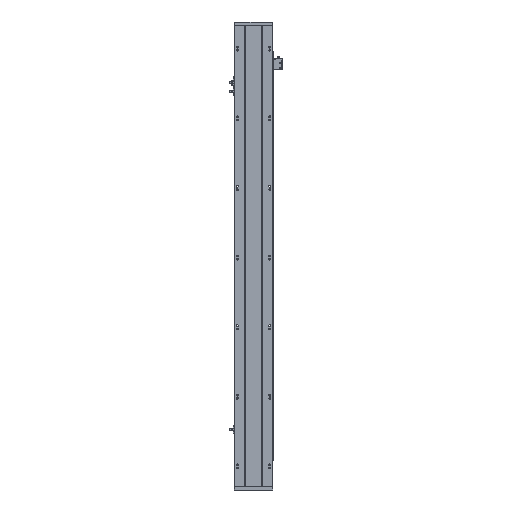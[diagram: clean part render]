
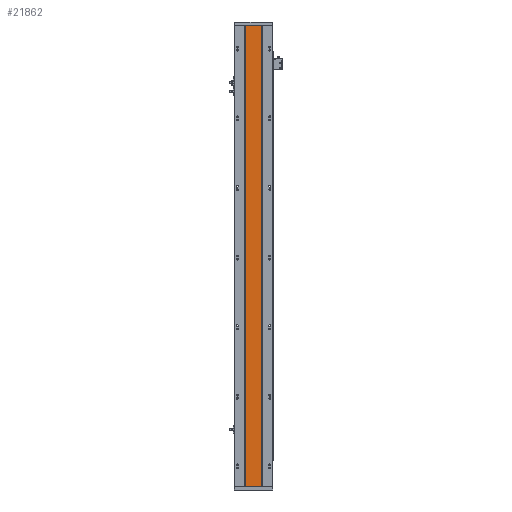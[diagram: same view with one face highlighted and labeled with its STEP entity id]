
A CAD part, front view. The second image highlights one B-rep face of the part: STEP entity #21862.
In plain terms, the highlighted planar face has unit normal (0, -1, 0).
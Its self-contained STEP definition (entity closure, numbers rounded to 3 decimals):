
#2025 = ORIENTED_EDGE ( 'NONE', *, *, #18872, .T. ) ;
#3052 = EDGE_CURVE ( 'NONE', #4344, #24870, #9448, .T. ) ;
#3317 = DIRECTION ( 'NONE',  ( -1., 0., 0. ) ) ;
#4344 = VERTEX_POINT ( 'NONE', #12514 ) ;
#7438 = PLANE ( 'NONE',  #10068 ) ;
#8120 = EDGE_CURVE ( 'NONE', #13325, #24870, #14245, .T. ) ;
#8491 = CARTESIAN_POINT ( 'NONE',  ( 183.063, 115.96, 1432. ) ) ;
#8928 = ORIENTED_EDGE ( 'NONE', *, *, #12211, .F. ) ;
#9324 = VERTEX_POINT ( 'NONE', #15212 ) ;
#9448 = LINE ( 'NONE', #13183, #16082 ) ;
#9955 = VECTOR ( 'NONE', #24834, 1000. ) ;
#10068 = AXIS2_PLACEMENT_3D ( 'NONE', #13913, #26536, #3317 ) ;
#12211 = EDGE_CURVE ( 'NONE', #9324, #13325, #14724, .T. ) ;
#12514 = CARTESIAN_POINT ( 'NONE',  ( 133.07, 115.96, 0. ) ) ;
#13104 = DIRECTION ( 'NONE',  ( 1., 0., 0. ) ) ;
#13183 = CARTESIAN_POINT ( 'NONE',  ( 0., 115.96, 0. ) ) ;
#13325 = VERTEX_POINT ( 'NONE', #8491 ) ;
#13913 = CARTESIAN_POINT ( 'NONE',  ( 0., 115.96, 1432. ) ) ;
#14245 = LINE ( 'NONE', #20504, #9955 ) ;
#14462 = LINE ( 'NONE', #17414, #26229 ) ;
#14724 = LINE ( 'NONE', #26062, #24803 ) ;
#15012 = FACE_OUTER_BOUND ( 'NONE', #23746, .T. ) ;
#15212 = CARTESIAN_POINT ( 'NONE',  ( 133.07, 115.96, 1432. ) ) ;
#16082 = VECTOR ( 'NONE', #19384, 1000. ) ;
#16804 = ORIENTED_EDGE ( 'NONE', *, *, #3052, .T. ) ;
#17414 = CARTESIAN_POINT ( 'NONE',  ( 133.07, 115.96, 1432. ) ) ;
#18872 = EDGE_CURVE ( 'NONE', #9324, #4344, #14462, .T. ) ;
#19384 = DIRECTION ( 'NONE',  ( 1., 0., 0. ) ) ;
#19575 = DIRECTION ( 'NONE',  ( 0., 0., -1. ) ) ;
#20094 = ORIENTED_EDGE ( 'NONE', *, *, #8120, .F. ) ;
#20504 = CARTESIAN_POINT ( 'NONE',  ( 183.063, 115.96, 1432. ) ) ;
#21862 = ADVANCED_FACE ( 'NONE', ( #15012 ), #7438, .F. ) ;
#23746 = EDGE_LOOP ( 'NONE', ( #16804, #20094, #8928, #2025 ) ) ;
#23891 = CARTESIAN_POINT ( 'NONE',  ( 183.063, 115.96, 0. ) ) ;
#24803 = VECTOR ( 'NONE', #13104, 1000. ) ;
#24834 = DIRECTION ( 'NONE',  ( 0., 0., -1. ) ) ;
#24870 = VERTEX_POINT ( 'NONE', #23891 ) ;
#26062 = CARTESIAN_POINT ( 'NONE',  ( 0., 115.96, 1432. ) ) ;
#26229 = VECTOR ( 'NONE', #19575, 1000. ) ;
#26536 = DIRECTION ( 'NONE',  ( 0., 1., 0. ) ) ;
